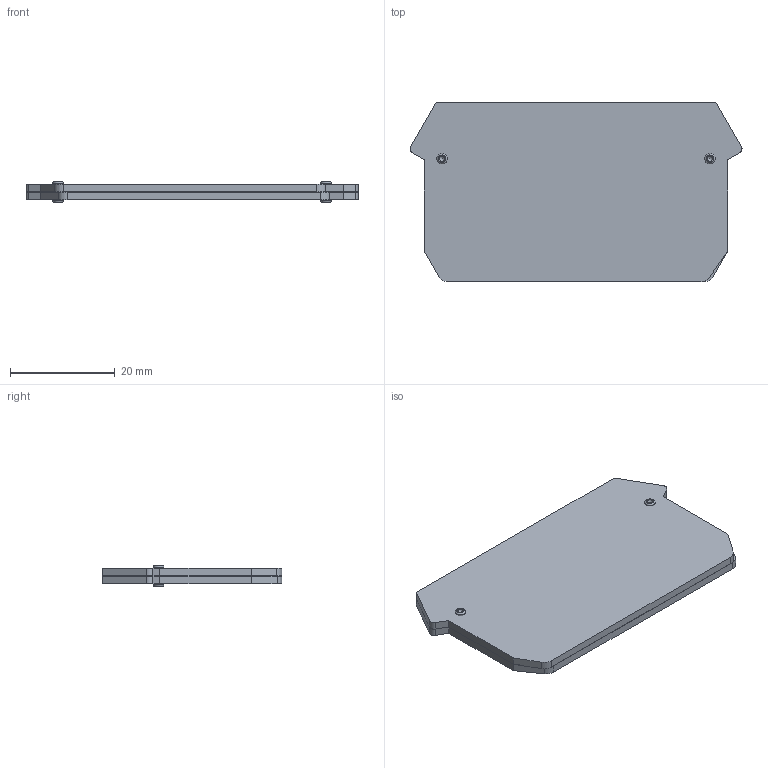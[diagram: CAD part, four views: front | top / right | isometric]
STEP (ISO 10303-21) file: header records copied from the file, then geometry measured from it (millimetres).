
FILE_DESCRIPTION(('Open CASCADE Model'),'2;1');
FILE_NAME('Open CASCADE Shape Model','2022-04-14T15:27:10',('Author'),( 'Open CASCADE'),'Open CASCADE STEP processor 6.5','Open CASCADE 6.5' ,'Unknown');
FILE_SCHEMA(('AUTOMOTIVE_DESIGN { 1 0 10303 214 1 1 1 1 }'));
Length unit declared in the file: millimetre
Products named in the file (59): CADSOFTTOOLS 3; CADSOFTTOOLS 3.1; CADSOFTTOOLS 3.2; CADSOFTTOOLS 3.3; CADSOFTTOOLS 3.4; CADSOFTTOOLS 3.5; CADSOFTTOOLS 3.6; CADSOFTTOOLS 3.7; CADSOFTTOOLS 3.8; CADSOFTTOOLS 3.9; CADSOFTTOOLS 3.10; CADSOFTTOOLS 3.11; CADSOFTTOOLS 3.12; CADSOFTTOOLS 3.13; CADSOFTTOOLS 3.14; CADSOFTTOOLS 3.15; CADSOFTTOOLS 3.16; CADSOFTTOOLS 3.17; CADSOFTTOOLS 3.18; CADSOFTTOOLS 3.19; CADSOFTTOOLS 3.20; CADSOFTTOOLS 3.21; CADSOFTTOOLS 3.22; CADSOFTTOOLS 3.23; CADSOFTTOOLS 3.24; CADSOFTTOOLS 3.25; CADSOFTTOOLS 3.26; CADSOFTTOOLS 3.27; CADSOFTTOOLS 3.28; CADSOFTTOOLS 3.29; CADSOFTTOOLS 3.30; CADSOFTTOOLS 3.31; CADSOFTTOOLS 3.32; CADSOFTTOOLS 3.33; CADSOFTTOOLS 3.34; CADSOFTTOOLS 3.35; CADSOFTTOOLS 3.36; CADSOFTTOOLS 3.37; CADSOFTTOOLS 3.38; CADSOFTTOOLS 3.39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
Assembly tree (58 placements, depth 2):
  CADSOFTTOOLS 3
    CADSOFTTOOLS 3.1
    CADSOFTTOOLS 3.2
    CADSOFTTOOLS 3.3
    CADSOFTTOOLS 3.4
    CADSOFTTOOLS 3.5
    CADSOFTTOOLS 3.6
    CADSOFTTOOLS 3.7
    CADSOFTTOOLS 3.8
    CADSOFTTOOLS 3.9
    CADSOFTTOOLS 3.10
    CADSOFTTOOLS 3.11
    CADSOFTTOOLS 3.12
    CADSOFTTOOLS 3.13
    CADSOFTTOOLS 3.14
    CADSOFTTOOLS 3.15
    CADSOFTTOOLS 3.16
    CADSOFTTOOLS 3.17
    CADSOFTTOOLS 3.18
    CADSOFTTOOLS 3.19
    CADSOFTTOOLS 3.20
    CADSOFTTOOLS 3.21
    CADSOFTTOOLS 3.22
    CADSOFTTOOLS 3.23
    CADSOFTTOOLS 3.24
    CADSOFTTOOLS 3.25
    CADSOFTTOOLS 3.26
    CADSOFTTOOLS 3.27
    CADSOFTTOOLS 3.28
    CADSOFTTOOLS 3.29
    CADSOFTTOOLS 3.30
    CADSOFTTOOLS 3.31
    CADSOFTTOOLS 3.32
    CADSOFTTOOLS 3.33
    CADSOFTTOOLS 3.34
    CADSOFTTOOLS 3.35
    CADSOFTTOOLS 3.36
    CADSOFTTOOLS 3.37
    CADSOFTTOOLS 3.38
    CADSOFTTOOLS 3.39
    CADSOFTTOOLS 3.40
    CADSOFTTOOLS 3.41
    CADSOFTTOOLS 3.42
    CADSOFTTOOLS 3.43
    CADSOFTTOOLS 3.44
    CADSOFTTOOLS 3.45
    CADSOFTTOOLS 3.46
    CADSOFTTOOLS 3.47
    CADSOFTTOOLS 3.48
    CADSOFTTOOLS 3.49
    CADSOFTTOOLS 3.50
    CADSOFTTOOLS 3.51
    CADSOFTTOOLS 3.52
    CADSOFTTOOLS 3.53
    CADSOFTTOOLS 3.54
    CADSOFTTOOLS 3.55
    CADSOFTTOOLS 3.56
    CADSOFTTOOLS 3.57
    CADSOFTTOOLS 3.58
Bounding box: 63.5 x 34.3 x 4 mm (x, y, z)
Surface area: 8519.9 mm2 (no closed solid volume)
Topology: 0 solids, 58 shells, 58 faces, 280 edges, 268 vertices
Faces by surface type: plane 38, cylinder 12, torus 4, sphere 4
Full cylindrical faces by diameter (mm): 2 x4
Entity records: 6092 total; most frequent: CARTESIAN_POINT 1269, DIRECTION 796, LINE 378, VECTOR 378, ORIENTED_EDGE 288, PCURVE 288, DEFINITIONAL_REPRESENTATION 288, EDGE_CURVE 276
